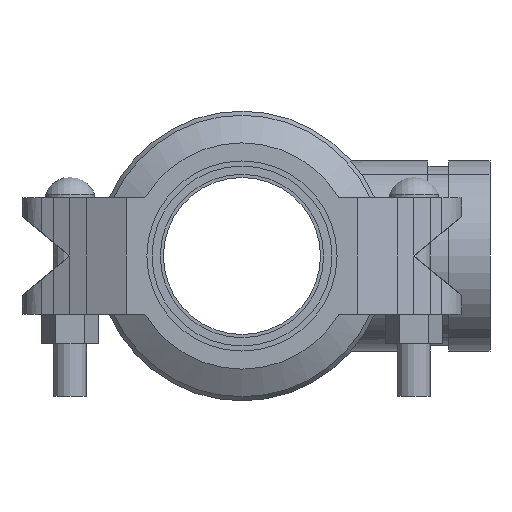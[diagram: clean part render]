
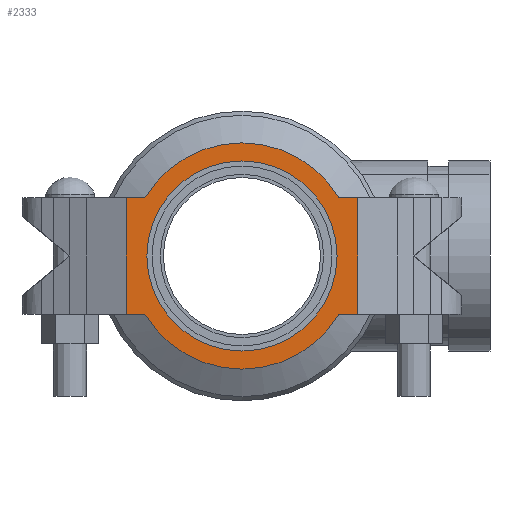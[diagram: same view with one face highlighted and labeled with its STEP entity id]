
A CAD part, left-side view. The second image highlights one B-rep face of the part: STEP entity #2333.
In plain terms, the highlighted planar face has unit normal (-1, 0, 0) as drawn and (0, 0, 1) by its records, which use the part's own axes.
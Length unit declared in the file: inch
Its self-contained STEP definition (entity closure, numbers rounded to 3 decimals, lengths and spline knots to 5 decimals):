
#94=FACE_BOUND('',#372,.T.);
#140=PLANE('',#2634);
#235=FACE_OUTER_BOUND('',#371,.T.);
#371=EDGE_LOOP('',(#1746,#1747,#1748,#1749,#1750,#1751,#1752,#1753));
#372=EDGE_LOOP('',(#1754,#1755));
#519=LINE('',#3784,#688);
#532=LINE('',#3818,#701);
#533=LINE('',#3822,#702);
#534=LINE('',#3824,#703);
#535=LINE('',#3826,#704);
#536=LINE('',#3829,#705);
#688=VECTOR('',#3090,0.3937);
#701=VECTOR('',#3129,0.3937);
#702=VECTOR('',#3132,0.3937);
#703=VECTOR('',#3133,0.3937);
#704=VECTOR('',#3134,0.3937);
#705=VECTOR('',#3137,0.3937);
#852=CIRCLE('',#2635,1.71);
#853=CIRCLE('',#2636,1.71);
#854=CIRCLE('',#2637,1.4375);
#855=CIRCLE('',#2638,1.4375);
#1015=VERTEX_POINT('',#3781);
#1016=VERTEX_POINT('',#3783);
#1024=VERTEX_POINT('',#3817);
#1025=VERTEX_POINT('',#3819);
#1026=VERTEX_POINT('',#3821);
#1027=VERTEX_POINT('',#3823);
#1028=VERTEX_POINT('',#3825);
#1029=VERTEX_POINT('',#3827);
#1030=VERTEX_POINT('',#3830);
#1031=VERTEX_POINT('',#3831);
#1275=EDGE_CURVE('',#1016,#1015,#519,.T.);
#1291=EDGE_CURVE('',#1015,#1024,#532,.T.);
#1292=EDGE_CURVE('',#1025,#1024,#852,.T.);
#1293=EDGE_CURVE('',#1026,#1025,#533,.T.);
#1294=EDGE_CURVE('',#1026,#1027,#534,.T.);
#1295=EDGE_CURVE('',#1027,#1028,#535,.T.);
#1296=EDGE_CURVE('',#1029,#1028,#853,.T.);
#1297=EDGE_CURVE('',#1016,#1029,#536,.T.);
#1298=EDGE_CURVE('',#1030,#1031,#854,.T.);
#1299=EDGE_CURVE('',#1031,#1030,#855,.T.);
#1746=ORIENTED_EDGE('',*,*,#1275,.T.);
#1747=ORIENTED_EDGE('',*,*,#1291,.T.);
#1748=ORIENTED_EDGE('',*,*,#1292,.F.);
#1749=ORIENTED_EDGE('',*,*,#1293,.F.);
#1750=ORIENTED_EDGE('',*,*,#1294,.T.);
#1751=ORIENTED_EDGE('',*,*,#1295,.T.);
#1752=ORIENTED_EDGE('',*,*,#1296,.F.);
#1753=ORIENTED_EDGE('',*,*,#1297,.F.);
#1754=ORIENTED_EDGE('',*,*,#1298,.T.);
#1755=ORIENTED_EDGE('',*,*,#1299,.T.);
#2333=ADVANCED_FACE('',(#235,#94),#140,.T.);
#2634=AXIS2_PLACEMENT_3D('',#3816,#3127,#3128);
#2635=AXIS2_PLACEMENT_3D('',#3820,#3130,#3131);
#2636=AXIS2_PLACEMENT_3D('',#3828,#3135,#3136);
#2637=AXIS2_PLACEMENT_3D('',#3832,#3138,#3139);
#2638=AXIS2_PLACEMENT_3D('',#3833,#3140,#3141);
#3090=DIRECTION('',(0.,-1.,0.));
#3127=DIRECTION('center_axis',(0.,0.,1.));
#3128=DIRECTION('ref_axis',(1.,0.,0.));
#3129=DIRECTION('',(1.,0.,0.));
#3130=DIRECTION('center_axis',(0.,0.,-1.));
#3131=DIRECTION('ref_axis',(-1.,0.,0.));
#3132=DIRECTION('',(-1.,0.,0.));
#3133=DIRECTION('',(0.,1.,0.));
#3134=DIRECTION('',(-1.,0.,0.));
#3135=DIRECTION('center_axis',(0.,0.,-1.));
#3136=DIRECTION('ref_axis',(-1.,0.,0.));
#3137=DIRECTION('',(1.,0.,0.));
#3138=DIRECTION('center_axis',(0.,0.,-1.));
#3139=DIRECTION('ref_axis',(-1.,0.,0.));
#3140=DIRECTION('center_axis',(0.,0.,-1.));
#3141=DIRECTION('ref_axis',(-1.,0.,0.));
#3781=CARTESIAN_POINT('',(-1.75,-0.88,1.065));
#3783=CARTESIAN_POINT('',(-1.75,0.88,1.065));
#3784=CARTESIAN_POINT('',(-1.75,1.295,1.065));
#3816=CARTESIAN_POINT('Origin',(0.,1.71,1.065));
#3817=CARTESIAN_POINT('',(-1.46619,-0.88,1.065));
#3818=CARTESIAN_POINT('',(-3.32554,-0.88,1.065));
#3819=CARTESIAN_POINT('',(1.46619,-0.88,1.065));
#3820=CARTESIAN_POINT('Origin',(0.,0.,1.065));
#3821=CARTESIAN_POINT('',(1.75,-0.88,1.065));
#3822=CARTESIAN_POINT('',(3.32554,-0.88,1.065));
#3823=CARTESIAN_POINT('',(1.75,0.88,1.065));
#3824=CARTESIAN_POINT('',(1.75,1.295,1.065));
#3825=CARTESIAN_POINT('',(1.46619,0.88,1.065));
#3826=CARTESIAN_POINT('',(3.32554,0.88,1.065));
#3827=CARTESIAN_POINT('',(-1.46619,0.88,1.065));
#3828=CARTESIAN_POINT('Origin',(0.,0.,1.065));
#3829=CARTESIAN_POINT('',(-3.32554,0.88,1.065));
#3830=CARTESIAN_POINT('',(0.,1.4375,1.065));
#3831=CARTESIAN_POINT('',(0.,-1.4375,1.065));
#3832=CARTESIAN_POINT('Origin',(0.,0.,1.065));
#3833=CARTESIAN_POINT('Origin',(0.,0.,1.065));
